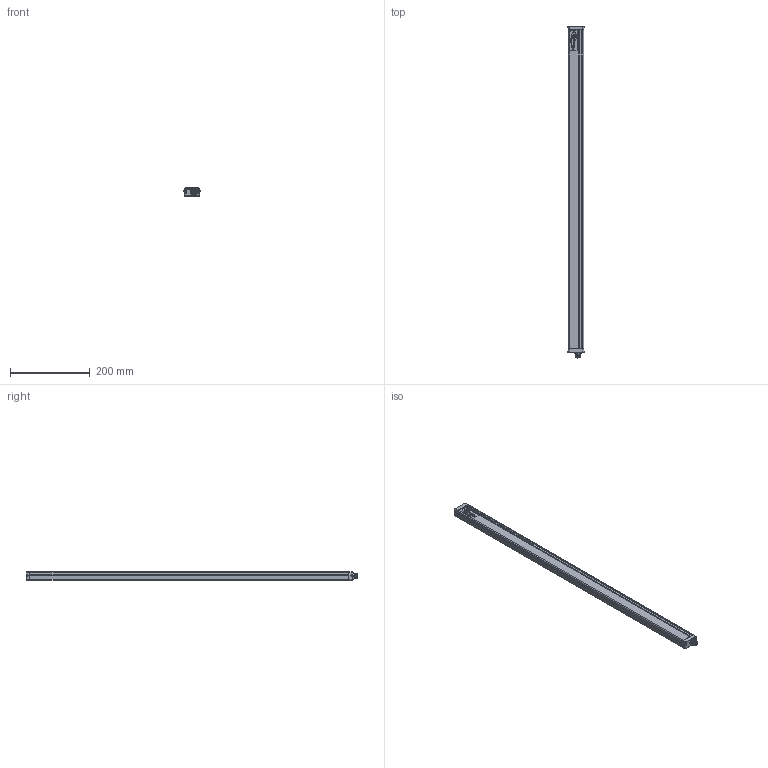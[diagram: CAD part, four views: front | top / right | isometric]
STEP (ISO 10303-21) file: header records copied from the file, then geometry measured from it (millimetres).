
FILE_DESCRIPTION(/* description */ (''),/* implementation_level */ '2;1');
FILE_NAME(/* name */ 'C:\Users\andre\SynologyDrive\Optoscan\Libreria Componenti\00 - Barriere\Barriera sorgente\Argo_800_RX.stp',/* time_stamp */ '2021-04-22T11:55:51+02:00',/* author */ ('andre'),/* organization */ (''),/* preprocessor_version */ 'ST-DEVELOPER v18',/* originating_system */ 'Autodesk Inventor 2020',/* authorisation */ '');
FILE_SCHEMA (('AUTOMOTIVE_DESIGN { 1 0 10303 214 3 1 1 }','MODEL_BASED_INTEGRATED_MANUFACTURING_SCHEMA'));
Length unit declared in the file: millimetre
Products named in the file (1): Argo_800_RX
Bounding box: 40.5 x 833.3 x 20.75 mm (x, y, z)
Volume: 167127.9 mm3; surface area: 217950.4 mm2
Topology: 1 solids, 1 shells, 692 faces, 1898 edges, 1217 vertices
Faces by surface type: plane 319, cylinder 195, bspline 94, torus 70, cone 8, sphere 6
Full cylindrical faces by diameter (mm): 1 x4, 2.459 x4, 2.5 x4, 3 x4, 3.5 x4, 5.5 x4, 8 x1, 10.5 x2, 11.75 x9, 15.7 x1, 17.5 x1
Entity records: 28165 total; most frequent: CARTESIAN_POINT 10195, ORIENTED_EDGE 3778, DIRECTION 3387, EDGE_CURVE 1889, VERTEX_POINT 1217, AXIS2_PLACEMENT_3D 1183, LINE 1021, VECTOR 1021
